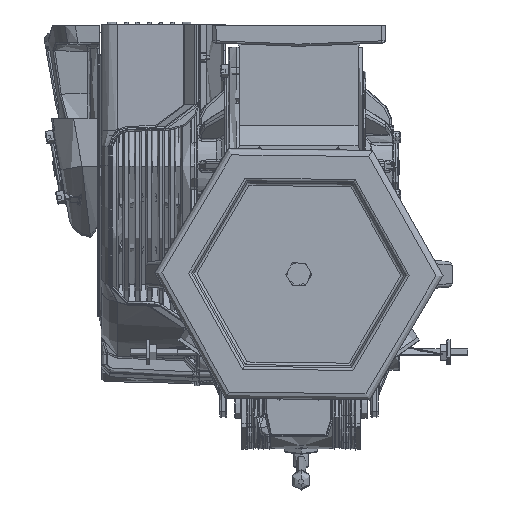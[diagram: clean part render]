
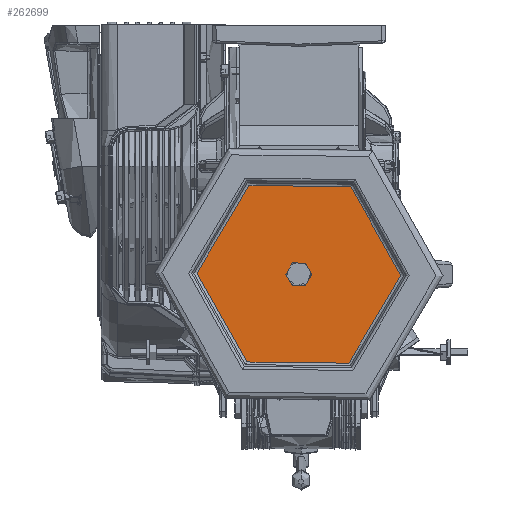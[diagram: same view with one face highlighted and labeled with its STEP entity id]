
A CAD part, front view. The second image highlights one B-rep face of the part: STEP entity #262699.
In plain terms, the highlighted planar face has unit normal (0, -1, 0).
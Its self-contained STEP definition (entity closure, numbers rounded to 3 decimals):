
#8411 = FACE_OUTER_BOUND ( 'NONE', #149201, .T. ) ;
#10512 = CIRCLE ( 'NONE', #39493, 141.34 ) ;
#17569 = DIRECTION ( 'NONE',  ( 0., -1., 0. ) ) ;
#19865 = DIRECTION ( 'NONE',  ( 0., -1., 0. ) ) ;
#20532 = CARTESIAN_POINT ( 'NONE',  ( 103.823, -510.385, 97.144 ) ) ;
#28309 = ORIENTED_EDGE ( 'NONE', *, *, #189930, .T. ) ;
#39493 = AXIS2_PLACEMENT_3D ( 'NONE', #58334, #190272, #282682 ) ;
#50500 = CARTESIAN_POINT ( 'NONE',  ( 22.505, -510.385, -40.012 ) ) ;
#52359 = DIRECTION ( 'NONE',  ( 0.51, 0., 0.86 ) ) ;
#58334 = CARTESIAN_POINT ( 'NONE',  ( 31.741, -510.385, -24.434 ) ) ;
#75017 = CARTESIAN_POINT ( 'NONE',  ( -89.837, -510.385, 47.648 ) ) ;
#113736 = DIRECTION ( 'NONE',  ( 0.51, 0., 0.86 ) ) ;
#121561 = EDGE_CURVE ( 'NONE', #238201, #167494, #133257, .T. ) ;
#122014 = PLANE ( 'NONE',  #221927 ) ;
#128039 = DIRECTION ( 'NONE',  ( 0., -1., 0. ) ) ;
#133257 = CIRCLE ( 'NONE', #167170, 141.34 ) ;
#149201 = EDGE_LOOP ( 'NONE', ( #190465, #28309 ) ) ;
#154354 = CARTESIAN_POINT ( 'NONE',  ( -40.34, -510.385, -146.012 ) ) ;
#155257 = DIRECTION ( 'NONE',  ( 0.51, 0., 0.86 ) ) ;
#155349 = CARTESIAN_POINT ( 'NONE',  ( 31.741, -510.385, -24.434 ) ) ;
#167170 = AXIS2_PLACEMENT_3D ( 'NONE', #155349, #17569, #179603 ) ;
#167494 = VERTEX_POINT ( 'NONE', #154354 ) ;
#171024 = AXIS2_PLACEMENT_3D ( 'NONE', #176520, #128039, #155257 ) ;
#176520 = CARTESIAN_POINT ( 'NONE',  ( 31.741, -510.385, -24.434 ) ) ;
#177943 = CIRCLE ( 'NONE', #216641, 18.111 ) ;
#179603 = DIRECTION ( 'NONE',  ( 0.51, 0., 0.86 ) ) ;
#183514 = EDGE_CURVE ( 'NONE', #222316, #251051, #238723, .T. ) ;
#189930 = EDGE_CURVE ( 'NONE', #167494, #238201, #10512, .T. ) ;
#190272 = DIRECTION ( 'NONE',  ( 0., -1., 0. ) ) ;
#190465 = ORIENTED_EDGE ( 'NONE', *, *, #121561, .T. ) ;
#200524 = ORIENTED_EDGE ( 'NONE', *, *, #296760, .F. ) ;
#201862 = CARTESIAN_POINT ( 'NONE',  ( 40.978, -510.385, -8.855 ) ) ;
#204640 = CARTESIAN_POINT ( 'NONE',  ( 31.741, -510.385, -24.434 ) ) ;
#207476 = EDGE_LOOP ( 'NONE', ( #295201, #200524 ) ) ;
#216641 = AXIS2_PLACEMENT_3D ( 'NONE', #204640, #19865, #113736 ) ;
#221927 = AXIS2_PLACEMENT_3D ( 'NONE', #75017, #259874, #52359 ) ;
#222316 = VERTEX_POINT ( 'NONE', #50500 ) ;
#238201 = VERTEX_POINT ( 'NONE', #20532 ) ;
#238723 = CIRCLE ( 'NONE', #171024, 18.111 ) ;
#251051 = VERTEX_POINT ( 'NONE', #201862 ) ;
#259874 = DIRECTION ( 'NONE',  ( 0., -1., 0. ) ) ;
#262699 = ADVANCED_FACE ( 'NONE', ( #8411, #282628 ), #122014, .T. ) ;
#282628 = FACE_BOUND ( 'NONE', #207476, .T. ) ;
#282682 = DIRECTION ( 'NONE',  ( 0.51, 0., 0.86 ) ) ;
#295201 = ORIENTED_EDGE ( 'NONE', *, *, #183514, .F. ) ;
#296760 = EDGE_CURVE ( 'NONE', #251051, #222316, #177943, .T. ) ;
